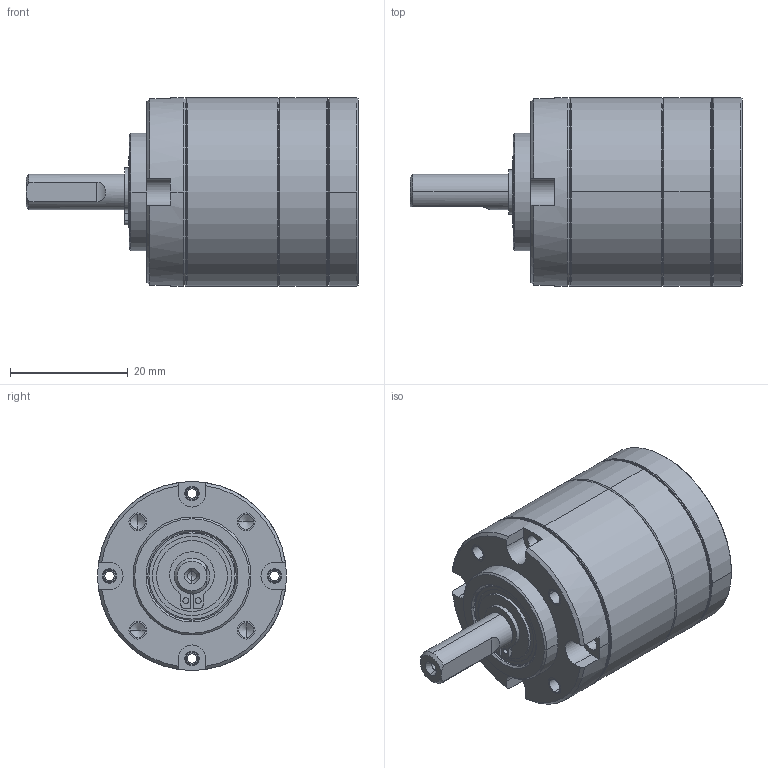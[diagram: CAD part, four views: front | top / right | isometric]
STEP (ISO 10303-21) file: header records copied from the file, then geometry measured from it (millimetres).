
FILE_DESCRIPTION((''),'2;1');
FILE_NAME('BBH_ASM','2023-03-20T',('Hsien.Hsu'),(''),'CREO PARAMETRIC BY PTC INC, 2016050','CREO PARAMETRIC BY PTC INC, 2016050','');
FILE_SCHEMA(('AUTOMOTIVE_DESIGN { 1 0 10303 214 1 1 1 1 }'));
Length unit declared in the file: millimetre
Products named in the file (14): NEWCOVER; C_LOCK; BALL_BEARING_M96860301; P32018_1107105_PW_; P32018_1109105_SW_; PG32CRING; NEWCOVER_ASM; 3202SG02_B; 3202SC02_B_ASM; 3201RSG020241503S; 3201RHG010414402B; 3201RSH_2_ASM; 3204LC0206100B; BBH_ASM
Assembly tree (16 placements, depth 3):
  BBH_ASM
    NEWCOVER_ASM
      NEWCOVER
      C_LOCK
      BALL_BEARING_M96860301  x2
      P32018_1107105_PW_
      P32018_1109105_SW_
      PG32CRING
    3202SC02_B_ASM
      3202SG02_B
      P32018_1109105_SW_
    3201RSH_2_ASM
      3201RSG020241503S
      3201RHG010414402B
    P32018_1107105_PW_
    3204LC0206100B
Bounding box: 56.3 x 32 x 32 mm (x, y, z)
Volume: 21699.3 mm3; surface area: 17342.6 mm2
Topology: 13 solids, 21 shells, 396 faces, 1075 edges, 784 vertices
Faces by surface type: cylinder 195, cone 102, plane 75, torus 24
Entity records: 15428 total; most frequent: DIRECTION 2302, CARTESIAN_POINT 2151, ORIENTED_EDGE 1624, AXIS2_PLACEMENT_3D 933, EDGE_CURVE 828, PRESENTATION_STYLE_ASSIGNMENT 713, STYLED_ITEM 713, CURVE_STYLE 699
